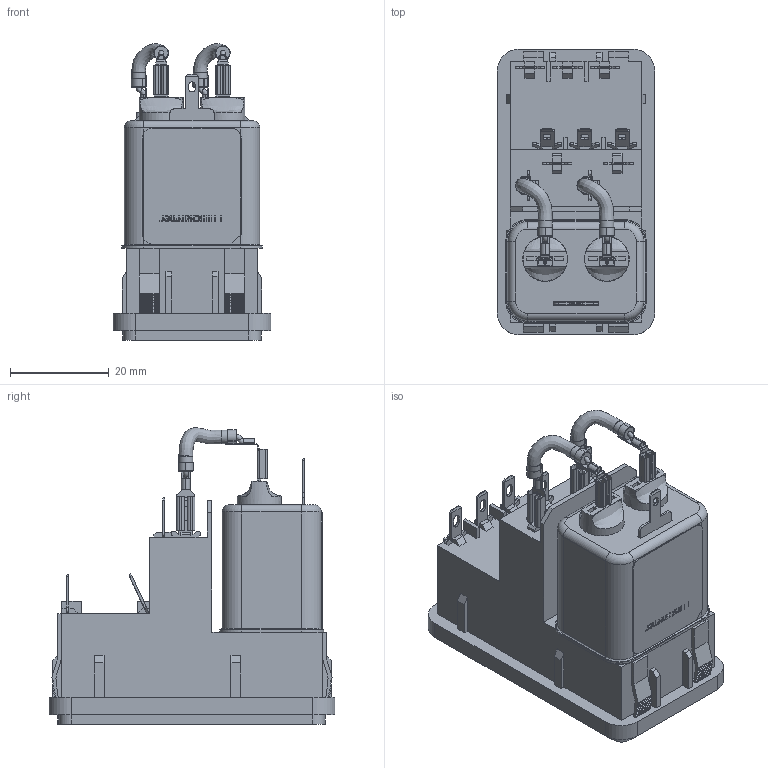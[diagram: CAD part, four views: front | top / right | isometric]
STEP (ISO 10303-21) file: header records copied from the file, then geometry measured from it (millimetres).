
FILE_DESCRIPTION((''),'2;1');
FILE_NAME('D:\_ PRODUCT\New project\3D request\FN372\FN372.stp','2012-10-18T09:25:29',('sayan.penton'),(''),'Autodesk Inventor 2010','Autodesk Inventor 2010','');
FILE_SCHEMA(('AUTOMOTIVE_DESIGN { 1 0 10303 214 1 1 1 1 }'));
Length unit declared in the file: millimetre
Products named in the file (1): Part1
Bounding box: 32 x 58 x 60.23 mm (x, y, z)
Volume: 27849.9 mm3; surface area: 23556.7 mm2
Topology: 3 solids, 5 shells, 1384 faces, 3976 edges, 2586 vertices
Faces by surface type: plane 904, cylinder 264, bspline 200, torus 16
Full cylindrical faces by diameter (mm): 1 x4, 1.2 x2, 2.8 x4, 9 x1, 9.1 x2, 12.5 x1
Entity records: 54997 total; most frequent: CARTESIAN_POINT 17729, ORIENTED_EDGE 7868, DIRECTION 6783, EDGE_CURVE 3936, VECTOR 3127, LINE 3127, VERTEX_POINT 2562, AXIS2_PLACEMENT_3D 1828
